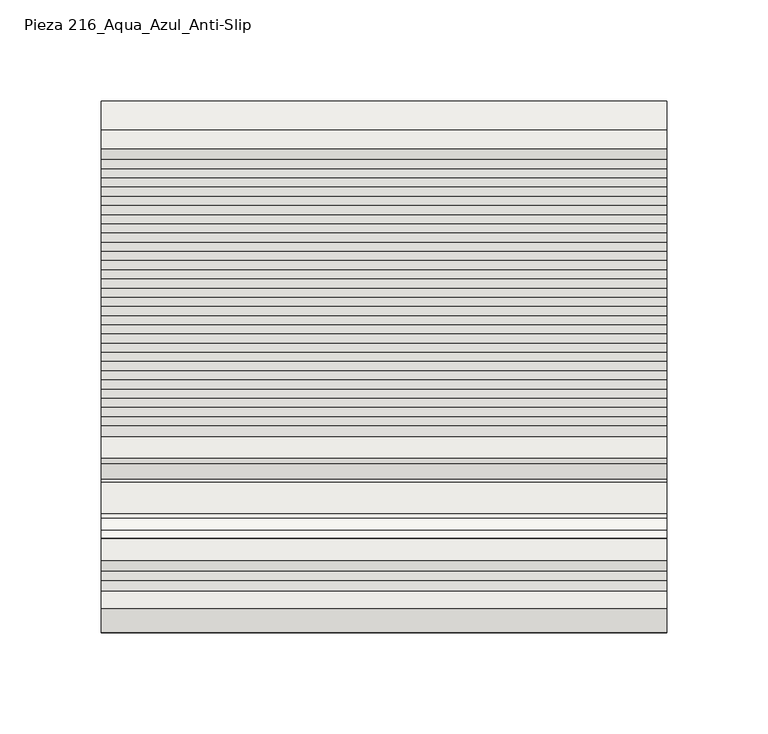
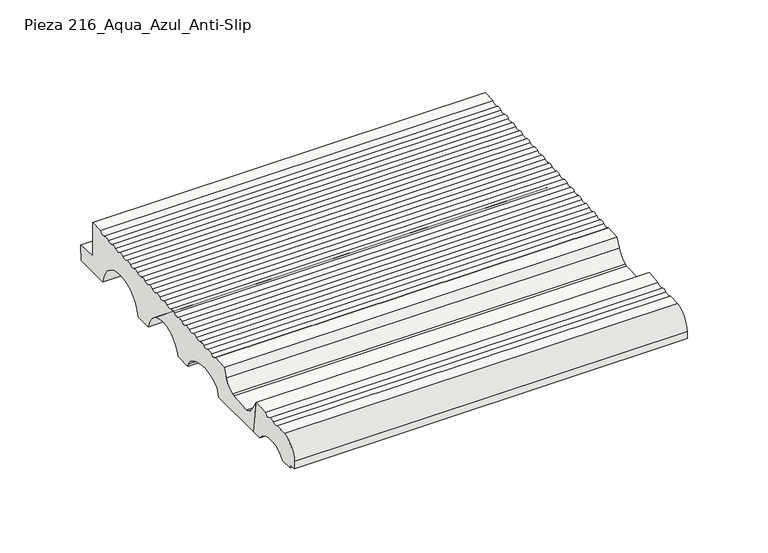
"""IFC4 building model written with IfcOpenShell, lengths in millimetres: slab geometry, ROSA GRES_216 : Pieza 216_Aqua_Azul_Anti-Slip."""

from ifc_helpers import new_model, si_unit, point, frame, frame_2d, origin, place, context, project, spatial, polyline, circle_curve, trimmed, segment, composite_curve, outline, extrude, source, transform, mapped, element, save


def pieza_216_aqua_azul_anti_slip_625501cd(model_context):
    return source(origin(), model_context, "Body", "SweptSolid", [
        extrude(outline(composite_curve([segment(polyline([(50.2779274, 190.3313491), (42.6585641, 190.3344144)]), True, "CONTINUOUS"), segment(trimmed(circle_curve(frame_2d((28.4466156, 179.1524611)), 18.0835716), [point((42.6585641, 190.3344144))], [point((14.2436688, 190.3458459))], True, "CARTESIAN"), True, "CONTINUOUS"), segment(polyline([(14.2436688, 190.3458459), (5.4229579, 190.3493946), (5.1617818, 192.8343188), (0.2589396, 192.8448483), (0.270618, 198.2826277)]), True, "CONTINUOUS"), segment(trimmed(circle_curve(frame_2d((13.9356113, 198.4086002)), 13.6655739), [point((0.270618, 198.2826277))], [point((12.4148911, 211.9892969))], False, "CARTESIAN"), True, "CONTINUOUS"), segment(polyline([(12.4148911, 211.9892969), (20.9679225, 212.5430894)]), True, "CONTINUOUS"), segment(trimmed(circle_curve(frame_2d((23.8495454, 215.5123064)), 4.1376321), [point((20.9679225, 212.5430894))], [point((26.349741, 212.2154865))], True, "CARTESIAN"), True, "CONTINUOUS"), segment(trimmed(circle_curve(frame_2d((28.8499366, 208.9186667)), 4.1376321), [point((26.349741, 212.2154865))], [point((30.8950387, 212.5155483))], False, "CARTESIAN"), True, "CONTINUOUS"), segment(trimmed(circle_curve(frame_2d((32.9401407, 216.1124298)), 4.1376321), [point((30.8950387, 212.5155483))], [point((36.1886491, 213.5497765))], True, "CARTESIAN"), True, "CONTINUOUS"), segment(polyline([(36.1886491, 213.5497765), (47.02226, 214.2649666), (50.2779274, 190.3313491)]), True, "CONTINUOUS")], self_intersect=False)), frame((0.0, 0.0, 0.0), z_axis=(1.0, 0.0, 0.0), x_axis=(0.0, 1.0, 0.0)), (0.0, 0.0, 1.0), 280.0265886),
        extrude(outline(composite_curve([segment(polyline([(263.2751802, 190.245659), (236.9233748, 190.2562605)]), True, "CONTINUOUS"), segment(trimmed(circle_curve(frame_2d((215.0085062, 186.5344061)), 22.2286676), [point((236.9233748, 190.2562605))], [point((193.0966393, 190.2738923))], True, "CARTESIAN"), True, "CONTINUOUS"), segment(polyline([(193.0966393, 190.2738923), (180.7270569, 190.2788686)]), True, "CONTINUOUS"), segment(trimmed(circle_curve(frame_2d((162.221775, 186.3703221)), 18.9135452), [point((180.7270569, 190.2788686))], [point((143.719644, 190.2937569))], True, "CARTESIAN"), True, "CONTINUOUS"), segment(polyline([(143.719644, 190.2937569), (131.5147991, 190.298667), (130.9555618, 192.6836396)]), True, "CONTINUOUS"), segment(trimmed(circle_curve(frame_2d((125.6336801, 191.4357448)), 5.4662296), [point((130.9555618, 192.6836396))], [point((129.2498705, 195.5348707))], True, "CARTESIAN"), True, "CONTINUOUS"), segment(trimmed(circle_curve(frame_2d((112.2317578, 176.2440208)), 25.7245612), [point((129.2498705, 195.5348707))], [point((96.2307788, 196.386556))], True, "CARTESIAN"), True, "CONTINUOUS"), segment(trimmed(circle_curve(frame_2d((99.6308378, 192.1064549)), 5.4662296), [point((96.2307788, 196.386556))], [point((94.4638044, 193.8901119))], True, "CARTESIAN"), True, "CONTINUOUS"), segment(polyline([(94.4638044, 193.8901119), (93.2293566, 190.3140695), (50.2802779, 190.3140695), (47.02226, 214.2649666), (51.3482048, 207.3914339)]), True, "CONTINUOUS"), segment(trimmed(circle_curve(frame_2d((63.7751184, 214.6556047)), 14.394317), [point((51.3482048, 207.3914339))], [point((57.0972438, 201.904042))], True, "CARTESIAN"), True, "CONTINUOUS"), segment(trimmed(circle_curve(frame_2d((59.2105081, 205.9393712)), 4.5551913), [point((57.0972438, 201.904042))], [point((59.5105698, 201.3940735))], True, "CARTESIAN"), True, "CONTINUOUS"), segment(polyline([(59.5105698, 201.3940735), (75.0526722, 202.4200987)]), True, "CONTINUOUS"), segment(trimmed(circle_curve(frame_2d((74.7526105, 206.9653964)), 4.5551913), [point((75.0526722, 202.4200987))], [point((76.5779698, 202.7919289))], True, "CARTESIAN"), True, "CONTINUOUS"), segment(trimmed(circle_curve(frame_2d((70.8098694, 215.980006)), 14.394317), [point((76.5779698, 202.7919289))], [point((84.083877, 210.4125036))], True, "CARTESIAN"), True, "CONTINUOUS"), segment(polyline([(84.083877, 210.4125036), (86.7854822, 216.8536554), (97.5473566, 217.5715259)]), True, "CONTINUOUS"), segment(trimmed(circle_curve(frame_2d((100.4299632, 220.5397878)), 4.1376321), [point((97.5473566, 217.5715259))], [point((102.9301588, 217.2429679))], True, "CARTESIAN"), True, "CONTINUOUS"), segment(trimmed(circle_curve(frame_2d((105.4303545, 213.9461481)), 4.1376321), [point((102.9301588, 217.2429679))], [point((107.4754565, 217.5430296))], False, "CARTESIAN"), True, "CONTINUOUS"), segment(trimmed(circle_curve(frame_2d((109.5205585, 221.1399112)), 4.1376321), [point((107.4754565, 217.5430296))], [point((112.0207542, 217.8430914))], True, "CARTESIAN"), True, "CONTINUOUS"), segment(trimmed(circle_curve(frame_2d((114.5209498, 214.5462715)), 4.1376321), [point((112.0207542, 217.8430914))], [point((116.5660518, 218.1431531))], False, "CARTESIAN"), True, "CONTINUOUS"), segment(trimmed(circle_curve(frame_2d((118.6111539, 221.7400347)), 4.1376321), [point((116.5660518, 218.1431531))], [point((121.1113495, 218.4432148))], True, "CARTESIAN"), True, "CONTINUOUS"), segment(trimmed(circle_curve(frame_2d((123.6115451, 215.1463949)), 4.1376321), [point((121.1113495, 218.4432148))], [point((125.6566472, 218.7432765))], False, "CARTESIAN"), True, "CONTINUOUS"), segment(trimmed(circle_curve(frame_2d((127.7017492, 222.3401581)), 4.1376321), [point((125.6566472, 218.7432765))], [point((130.2019448, 219.0433382))], True, "CARTESIAN"), True, "CONTINUOUS"), segment(trimmed(circle_curve(frame_2d((132.7021405, 215.7465184)), 4.1376321), [point((130.2019448, 219.0433382))], [point((134.7472425, 219.3433999))], False, "CARTESIAN"), True, "CONTINUOUS"), segment(trimmed(circle_curve(frame_2d((136.7923445, 222.9402815)), 4.1376321), [point((134.7472425, 219.3433999))], [point((139.2925402, 219.6434617))], True, "CARTESIAN"), True, "CONTINUOUS"), segment(trimmed(circle_curve(frame_2d((141.7927358, 216.3466418)), 4.1376321), [point((139.2925402, 219.6434617))], [point((143.8378378, 219.9435234))], False, "CARTESIAN"), True, "CONTINUOUS"), segment(trimmed(circle_curve(frame_2d((145.8829399, 223.540405)), 4.1376321), [point((143.8378378, 219.9435234))], [point((148.3831355, 220.2435851))], True, "CARTESIAN"), True, "CONTINUOUS"), segment(trimmed(circle_curve(frame_2d((150.8833311, 216.9467652)), 4.1376321), [point((148.3831355, 220.2435851))], [point((152.9284332, 220.5436468))], False, "CARTESIAN"), True, "CONTINUOUS"), segment(trimmed(circle_curve(frame_2d((154.9735352, 224.1405284)), 4.1376321), [point((152.9284332, 220.5436468))], [point((157.4737308, 220.8437085))], True, "CARTESIAN"), True, "CONTINUOUS"), segment(trimmed(circle_curve(frame_2d((159.9739265, 217.5468887)), 4.1376321), [point((157.4737308, 220.8437085))], [point((162.0190285, 221.1437703))], False, "CARTESIAN"), True, "CONTINUOUS"), segment(trimmed(circle_curve(frame_2d((164.0641305, 224.7406518)), 4.1376321), [point((162.0190285, 221.1437703))], [point((166.5643262, 221.443832))], True, "CARTESIAN"), True, "CONTINUOUS"), segment(trimmed(circle_curve(frame_2d((169.0645218, 218.1470121)), 4.1376321), [point((166.5643262, 221.443832))], [point((171.1096238, 221.7438937))], False, "CARTESIAN"), True, "CONTINUOUS"), segment(trimmed(circle_curve(frame_2d((173.1547259, 225.3407753)), 4.1376321), [point((171.1096238, 221.7438937))], [point((175.6549215, 222.0439554))], True, "CARTESIAN"), True, "CONTINUOUS"), segment(trimmed(circle_curve(frame_2d((178.1551171, 218.7471355)), 4.1376321), [point((175.6549215, 222.0439554))], [point((180.2002192, 222.3440171))], False, "CARTESIAN"), True, "CONTINUOUS"), segment(trimmed(circle_curve(frame_2d((182.2453212, 225.9408987)), 4.1376321), [point((180.2002192, 222.3440171))], [point((184.7455168, 222.6440788))], True, "CARTESIAN"), True, "CONTINUOUS"), segment(trimmed(circle_curve(frame_2d((187.2457125, 219.347259)), 4.1376321), [point((184.7455168, 222.6440788))], [point((189.2908145, 222.9441406))], False, "CARTESIAN"), True, "CONTINUOUS"), segment(trimmed(circle_curve(frame_2d((191.3359165, 226.5410222)), 4.1376321), [point((189.2908145, 222.9441406))], [point((193.8361122, 223.2442023))], True, "CARTESIAN"), True, "CONTINUOUS"), segment(trimmed(circle_curve(frame_2d((196.3363078, 219.9473824)), 4.1376321), [point((193.8361122, 223.2442023))], [point((198.3814098, 223.544264))], False, "CARTESIAN"), True, "CONTINUOUS"), segment(trimmed(circle_curve(frame_2d((200.4265119, 227.1411456)), 4.1376321), [point((198.3814098, 223.544264))], [point((202.9267075, 223.8443257))], True, "CARTESIAN"), True, "CONTINUOUS"), segment(trimmed(circle_curve(frame_2d((205.4269031, 220.5475058)), 4.1376321), [point((202.9267075, 223.8443257))], [point((207.4720052, 224.1443874))], False, "CARTESIAN"), True, "CONTINUOUS"), segment(trimmed(circle_curve(frame_2d((209.5171072, 227.741269)), 4.1376321), [point((207.4720052, 224.1443874))], [point((212.0173028, 224.4444492))], True, "CARTESIAN"), True, "CONTINUOUS"), segment(trimmed(circle_curve(frame_2d((214.5174985, 221.1476293)), 4.1376321), [point((212.0173028, 224.4444492))], [point((216.5626005, 224.7445109))], False, "CARTESIAN"), True, "CONTINUOUS"), segment(trimmed(circle_curve(frame_2d((218.6077025, 228.3413925)), 4.1376321), [point((216.5626005, 224.7445109))], [point((221.1078982, 225.0445726))], True, "CARTESIAN"), True, "CONTINUOUS"), segment(trimmed(circle_curve(frame_2d((223.6080938, 221.7477527)), 4.1376321), [point((221.1078982, 225.0445726))], [point((225.6531958, 225.3446343))], False, "CARTESIAN"), True, "CONTINUOUS"), segment(trimmed(circle_curve(frame_2d((227.6982979, 228.9415159)), 4.1376321), [point((225.6531958, 225.3446343))], [point((230.1984935, 225.644696))], True, "CARTESIAN"), True, "CONTINUOUS"), segment(trimmed(circle_curve(frame_2d((232.6986891, 222.3478762)), 4.1376321), [point((230.1984935, 225.644696))], [point((234.7437912, 225.9447577))], False, "CARTESIAN"), True, "CONTINUOUS"), segment(trimmed(circle_curve(frame_2d((236.7888932, 229.5416393)), 4.1376321), [point((234.7437912, 225.9447577))], [point((240.0374016, 226.9789859))], True, "CARTESIAN"), True, "CONTINUOUS"), segment(polyline([(240.0374016, 226.9789859), (249.2078603, 227.5843816), (249.1610944, 202.0976939), (263.622227, 201.6579314), (263.2751802, 190.245659)]), True, "CONTINUOUS")], self_intersect=False)), frame((0.0, 0.0, 0.0), z_axis=(1.0, 0.0, 0.0), x_axis=(0.0, 1.0, 0.0)), (0.0, 0.0, 1.0), 280.0265886),
    ])


if __name__ == "__main__":
    model = new_model("IFC4")
    model_context = context("Model", 3, world=origin())
    ifc_project = project(units=[si_unit("LENGTHUNIT", "METRE", prefix="MILLI")], contexts=[model_context])
    site = spatial("IfcSite", under=ifc_project)
    building = spatial("IfcBuilding", under=site)
    placement = place(None, origin())
    pieza_216_aqua_azul_anti_slip_shape = pieza_216_aqua_azul_anti_slip_625501cd(model_context)
    element("IfcSlab", 1, ObjectType="ROSA GRES_216 : Pieza 216_Aqua_Azul_Anti-Slip", at=placement, inside=building, context=model_context, shape_type="MappedRepresentation", body=[
        mapped(pieza_216_aqua_azul_anti_slip_shape, transform((0.0, 0.0, 0.0), x_axis=(1.0, 0.0, 0.0), y_axis=(0.0, 1.0, 0.0), z_axis=(0.0, 0.0, 1.0))),
    ])
    save(model, "model.ifc")
